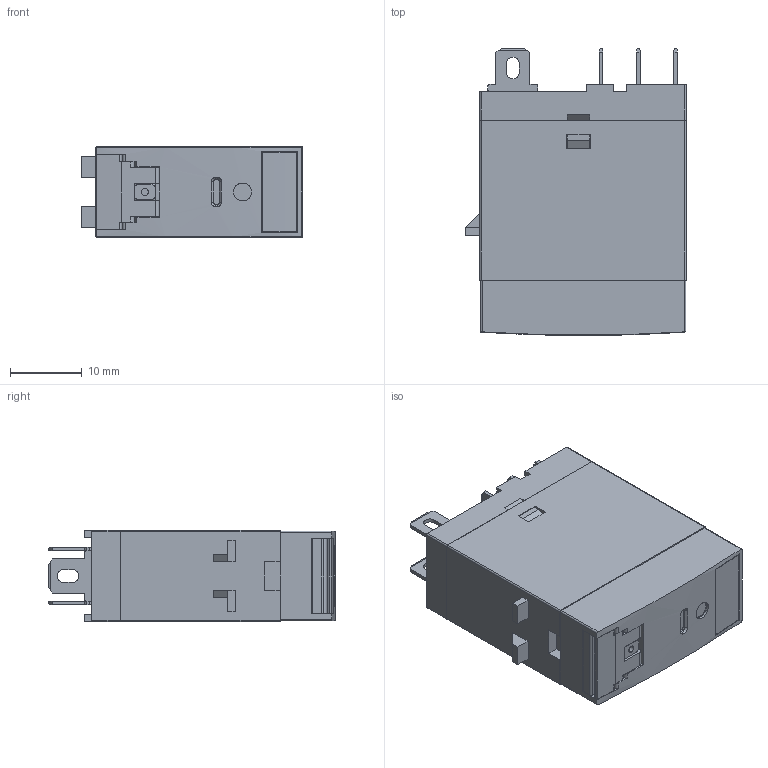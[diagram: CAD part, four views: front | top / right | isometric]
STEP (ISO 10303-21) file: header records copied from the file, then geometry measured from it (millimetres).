
FILE_DESCRIPTION (( 'STEP AP203' ), '1' );
FILE_NAME ('69KTL1Z.STEP', '2019-03-14T02:58:10', ( 'XiaZaiMa.COM' ), ( 'Win10NeT.COM' ), 'SwSTEP 2.0', 'SolidWorks 2014', '' );
FILE_SCHEMA (( 'CONFIG_CONTROL_DESIGN' ));
Length unit declared in the file: millimetre
Products named in the file (28): 揤銅え; 1Z噙揖萸; 竘盄蟀諉え; 1Z线圈架-DC; 1Z奻噙銅; 階裝; 沺郋-DC; 1Z價釱; 1Z諉盄え; 售諶; 1Z酘竘盄褐-蚾饜; 1Z俋褲ㄗ裔啣宒ㄘ; 1Z雄銅え - a; 1Z推动架（带指示） - 更改后; 1Z衵竘盄褐-蚾饜; 1Z雄銅え - b; 揤銅えㄗ載蜊綴ㄘ; 盄婁; 1Z穩綴雄揖萸; 盄繚啣ㄗNNC69KL蚚ㄘ; 梓暮啣; 濎沺; 裔啣 ; 盄繚啣; 玴沺; 1Z狟噙銅; 69KTL1Z; 絳嫖翐
Assembly tree (30 placements, depth 2):
  69KTL1Z
    1Z價釱
    1Z俋褲ㄗ裔啣宒ㄘ
    1Z狟噙銅
    1Z噙揖萸  x2
    1Z奻噙銅
    1Z諉盄え
    1Z雄銅え - a
    1Z雄銅え - b
    1Z穩綴雄揖萸
    濎沺
    玴沺
    揤銅え
    1Z线圈架-DC
    沺郋-DC
    1Z酘竘盄褐-蚾饜
    1Z衵竘盄褐-蚾饜
    盄婁
    梓暮啣
    盄繚啣
    絳嫖翐
    竘盄蟀諉え  x3
    階裝
    售諶
    1Z推动架（带指示） - 更改后
    揤銅えㄗ載蜊綴ㄘ
    盄繚啣ㄗNNC69KL蚚ㄘ
    裔啣 
Bounding box: 30.8 x 39.99 x 12.7 mm (x, y, z)
Volume: 6869 mm3; surface area: 17285.8 mm2
Topology: 30 solids, 30 shells, 2013 faces, 5488 edges, 3592 vertices
Faces by surface type: plane 1512, cylinder 423, torus 35, bspline 23, cone 16, sphere 4
Entity records: 66625 total; most frequent: CARTESIAN_POINT 13526, ORIENTED_EDGE 10656, DIRECTION 9989, EDGE_CURVE 5328, VECTOR 4349, LINE 4349, VERTEX_POINT 3486, AXIS2_PLACEMENT_3D 2820
